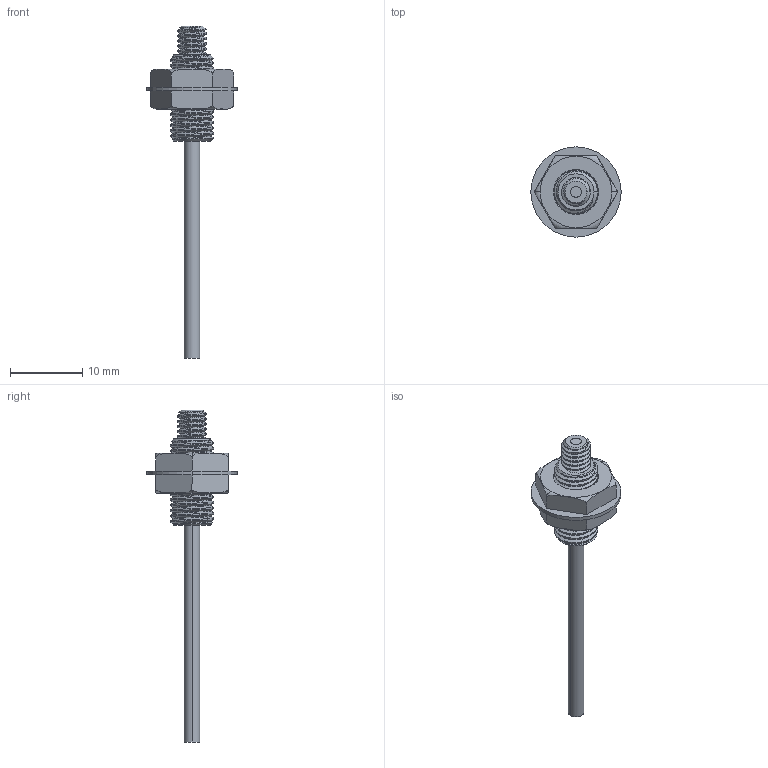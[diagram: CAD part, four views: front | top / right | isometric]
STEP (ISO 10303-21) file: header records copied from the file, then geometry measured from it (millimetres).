
FILE_DESCRIPTION (( 'STEP AP203' ), '1' );
FILE_NAME ('FQ-71_R.STEP', '2020-11-03T07:05:04', ( '' ), ( '' ), 'SwSTEP 2.0', 'SolidWorks 2020', '' );
FILE_SCHEMA (( 'CONFIG_CONTROL_DESIGN' ));
Length unit declared in the file: millimetre
Products named in the file (4): FQ-71_R; M6菜えx1x1x1; M6蹟譫x2.5.5.5
Assembly tree (4 placements, depth 2):
  FQ-71_R
    FQ-71_R
    M6蹟譫x2.5.5.5  x2
    M6菜えx1x1x1
Bounding box: 12.5 x 12.5 x 46 mm (x, y, z)
Volume: 800.9 mm3; surface area: 1394.9 mm2
Topology: 4 solids, 4 shells, 121 faces, 319 edges, 210 vertices
Faces by surface type: cylinder 63, plane 24, cone 18, bspline 12, torus 4
Entity records: 8863 total; most frequent: CARTESIAN_POINT 6388, ORIENTED_EDGE 508, DIRECTION 350, EDGE_CURVE 254, VERTEX_POINT 168, AXIS2_PLACEMENT_3D 136, EDGE_LOOP 104, ADVANCED_FACE 96
